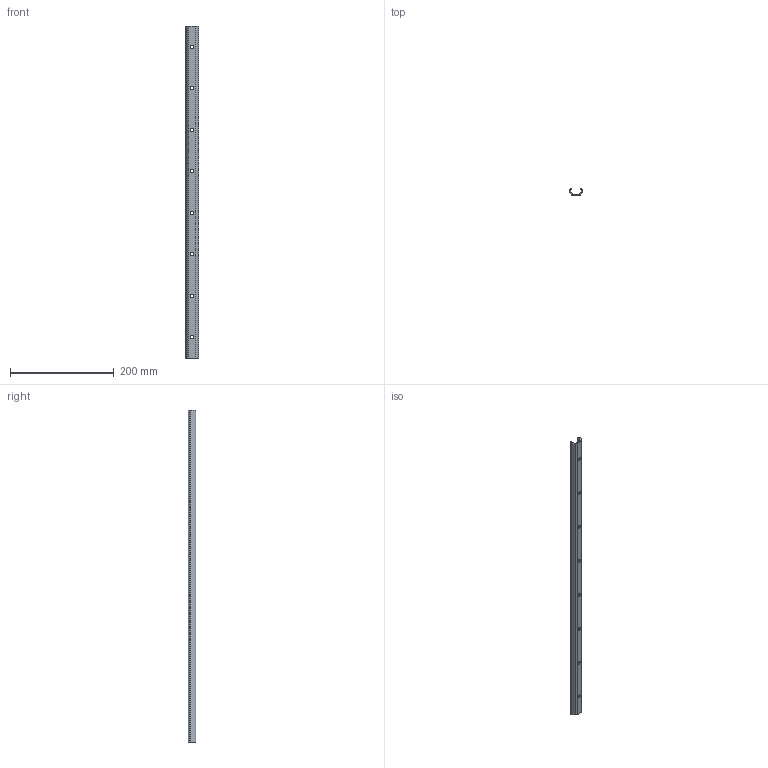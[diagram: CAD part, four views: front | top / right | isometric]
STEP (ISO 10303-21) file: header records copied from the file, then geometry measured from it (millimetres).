
FILE_DESCRIPTION(('STEP AP214'),'1');
FILE_NAME('rail_tex26-640.stp','2019-03-08T08:28:47',('TraceParts'),('TraceParts S.A.'),'Spatial InterOp 3D',' ',' ');
FILE_SCHEMA(('automotive_design'));
Length unit declared in the file: millimetre
Products named in the file (1): rail_tex26-640
Bounding box: 26.06 x 14 x 640 mm (x, y, z)
Volume: 66257.6 mm3; surface area: 56580.9 mm2
Topology: 1 solids, 1 shells, 156 faces, 408 edges, 272 vertices
Faces by surface type: plane 106, cylinder 28, bspline 22
Entity records: 9433 total; most frequent: CARTESIAN_POINT 4371, ORIENTED_EDGE 816, DIRECTION 690, EDGE_CURVE 408, LINE 308, VECTOR 308, VERTEX_POINT 272, AXIS2_PLACEMENT_3D 191
